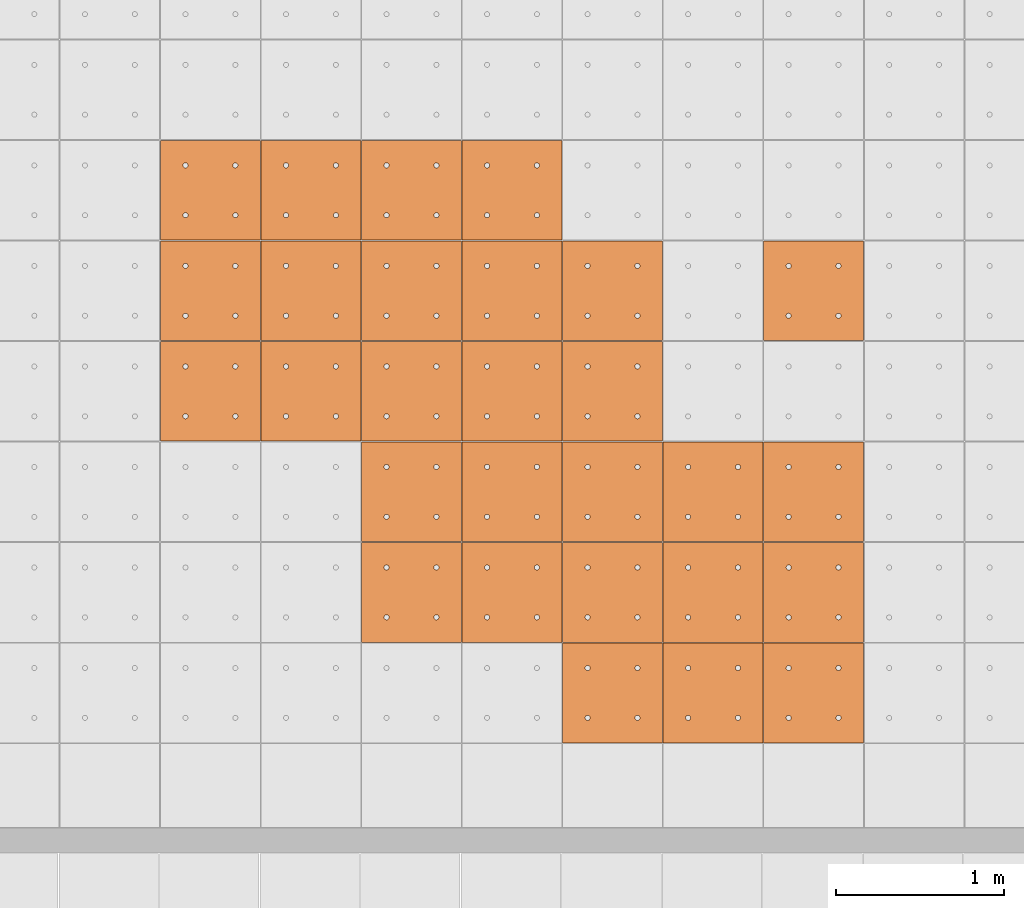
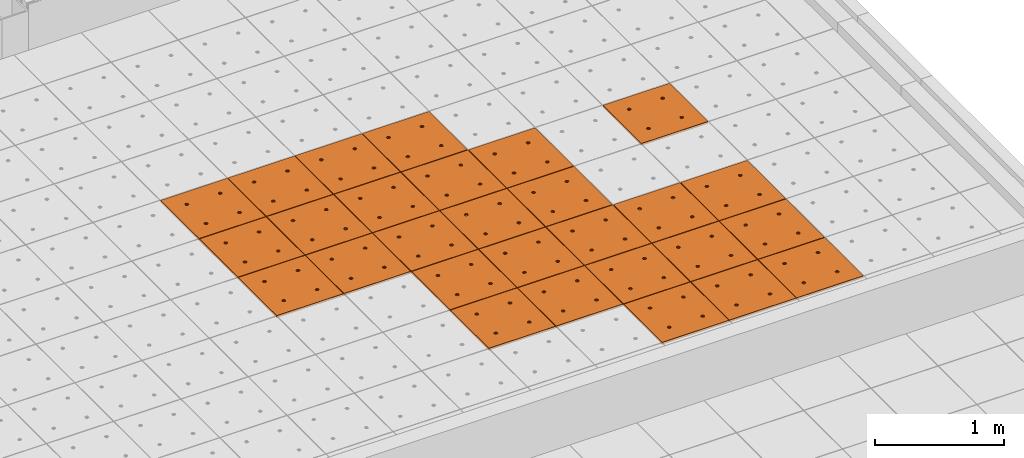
# One storey, part 222 of 338: 28 proxies, 1 element without a shape of its own.
"""IFC2X3 building model written with IfcOpenShell, lengths in millimetres."""

import ifcopenshell
import ifcopenshell.guid

model = None  # the IFC model being written
_history = None  # IfcOwnerHistory: only IFC2X3 demands one
_inside = {}  # id of a spatial element -> (the spatial element, [elements in it])
_under = {}  # id of a project, library or spatial element -> (it, [spatial elements below it])
_declared = {}  # id of a project -> (the project, [libraries it declares])
_typed = {}  # id of a type object -> (the type object, [elements of that type])
_made_of = {}  # id of a material, layer set ... -> (it, [elements and type objects made of it])


def new_model(schema):
    """Start an empty IFC model of exactly this schema.

    Asked for "IFC4X3", IfcOpenShell would pick the latest addendum, in which some entities
    have other attributes; the version numbers below select the first issue.
    IFC2X3 requires an IfcOwnerHistory on every rooted entity: one is made here for all.
    """
    global model, _history
    if schema == "IFC4X3":
        model = ifcopenshell.file(schema_version=(4, 3, 0, 0))
    else:
        model = ifcopenshell.file(schema=schema)
    _inside.clear()
    _under.clear()
    _declared.clear()
    _typed.clear()
    _made_of.clear()
    _history = None
    if model.schema == "IFC2X3":
        org = make("IfcOrganization", Name="unknown")
        user = make(
            "IfcPersonAndOrganization",
            ThePerson=make("IfcPerson", FamilyName="unknown"),
            TheOrganization=org,
        )
        app = make(
            "IfcApplication",
            ApplicationDeveloper=org,
            Version="unknown",
            ApplicationFullName="unknown",
            ApplicationIdentifier="unknown",
        )
        _history = make(
            "IfcOwnerHistory",
            OwningUser=user,
            OwningApplication=app,
            ChangeAction="ADDED",
            CreationDate=0,
        )
    return model


def make(cls, **values):
    """One entity of the class cls with the attributes given. An attribute that is None is left unset."""
    return model.create_entity(
        cls, **{name: value for name, value in values.items() if value is not None}
    )


def entity(cls, *values):
    """Any entity or typed value of the class cls, its attributes in the order of the schema. None: left unset."""
    e = model.create_entity(cls)
    for i, value in enumerate(values):
        if value is not None:
            e[i] = value
    return e


def rooted(cls, **values):
    """An entity with a GlobalId (a new one), such as an element, a storey or a relation."""
    return make(cls, GlobalId=ifcopenshell.guid.new(), OwnerHistory=_history, **values)


def si_unit(unit_type, name, prefix=None):
    """IfcSIUnit, for example si_unit("LENGTHUNIT", "METRE", prefix="MILLI")."""
    return make("IfcSIUnit", UnitType=unit_type, Prefix=prefix, Name=name)


def converted_unit(unit_type, name, factor, base, dimensions=None, offset=None):
    """IfcConversionBasedUnit, such as the inch: factor (a typed value) times the base unit."""
    return make(
        "IfcConversionBasedUnit"
        if offset is None
        else "IfcConversionBasedUnitWithOffset",
        ConversionOffset=offset,
        Dimensions=None
        if dimensions is None
        else entity("IfcDimensionalExponents", *dimensions),
        UnitType=unit_type,
        Name=name,
        ConversionFactor=make(
            "IfcMeasureWithUnit", ValueComponent=factor, UnitComponent=base
        ),
    )


def derived_unit(unit_type, elements):
    """IfcDerivedUnit: a product of units, each with its exponent."""
    return make(
        "IfcDerivedUnit",
        Elements=[
            make("IfcDerivedUnitElement", Unit=unit, Exponent=power)
            for unit, power in elements
        ],
        UnitType=unit_type,
    )


def money_unit(currency):
    """IfcMonetaryUnit."""
    return make("IfcMonetaryUnit", Currency=currency)


def assignment(units):
    """IfcUnitAssignment: the units of a project."""
    return None if units is None else make("IfcUnitAssignment", Units=units)


def point(xyz):
    """IfcCartesianPoint."""
    return None if xyz is None else make("IfcCartesianPoint", Coordinates=xyz)


def direction(xyz):
    """IfcDirection."""
    return None if xyz is None else make("IfcDirection", DirectionRatios=xyz)


def frame(location, z_axis=None, x_axis=None):
    """IfcAxis2Placement3D, a coordinate frame: its origin and axes. An axis left out is left unset."""
    return make(
        "IfcAxis2Placement3D",
        Location=point(location),
        Axis=direction(z_axis),
        RefDirection=direction(x_axis),
    )


def origin_with_axes():
    """The frame at (0, 0, 0) with the z axis (0, 0, 1) and the x axis (1, 0, 0) written out."""
    return frame((0.0, 0.0, 0.0), z_axis=(0.0, 0.0, 1.0), x_axis=(1.0, 0.0, 0.0))


def place(relative_to, where):
    """IfcLocalPlacement: puts the frame where relative to a parent placement (None: the world)."""
    return make(
        "IfcLocalPlacement", PlacementRelTo=relative_to, RelativePlacement=where
    )


def context(
    kind, dimensions, precision=None, world=None, true_north=None, identifier=None
):
    """IfcGeometricRepresentationContext, for example the 3D "Model" context."""
    return make(
        "IfcGeometricRepresentationContext",
        ContextIdentifier=identifier,
        ContextType=kind,
        CoordinateSpaceDimension=dimensions,
        Precision=precision,
        WorldCoordinateSystem=world,
        TrueNorth=true_north,
    )


def subcontext(parent, identifier, kind, view, scale=None):
    """IfcGeometricRepresentationSubContext, for example "Body" below "Model"."""
    return make(
        "IfcGeometricRepresentationSubContext",
        ContextIdentifier=identifier,
        ContextType=kind,
        ParentContext=parent,
        TargetScale=scale,
        TargetView=view,
    )


def project(units=None, contexts=None):
    """IfcProject with its units and contexts."""
    return rooted(
        "IfcProject",
        Name="project",
        RepresentationContexts=contexts,
        UnitsInContext=assignment(units),
    )


def spatial(cls, under=None, at=None, **own):
    """A site, building, storey or space (cls), placed at a placement, below another one or the project."""
    s = rooted(cls, ObjectPlacement=at, **own)
    if under is not None:
        _under.setdefault(under.id(), (under, []))[1].append(s)
    return s


def faces_of(points, faces, orient=None, outer=None):
    """IfcFace entities. A face is a list of loops; a loop is a list of indices into points, from 0.

    orient and outer hold one flag for each loop. By default every Orientation is true, the
    first loop of a face is its IfcFaceOuterBound and the others are IfcFaceBound.
    """
    made = []
    for i, loops in enumerate(faces):
        bounds = []
        for j, loop in enumerate(loops):
            is_outer = j == 0 if outer is None else outer[i][j]
            bounds.append(
                make(
                    "IfcFaceOuterBound" if is_outer else "IfcFaceBound",
                    Bound=make("IfcPolyLoop", Polygon=[points[k] for k in loop]),
                    Orientation=True if orient is None else orient[i][j],
                )
            )
        made.append(make("IfcFace", Bounds=bounds))
    return made


def faceted_brep(points, faces, orient=None, outer=None, voids=None):
    """IfcFacetedBrep: a solid bounded by flat faces; with voids (closed shells), ...WithVoids."""
    shared = [point(p) for p in points]
    hull = make("IfcClosedShell", CfsFaces=faces_of(shared, faces, orient, outer))
    if voids is None:
        return make("IfcFacetedBrep", Outer=hull)
    return make(
        "IfcFacetedBrepWithVoids",
        Outer=hull,
        Voids=[
            make(cls, CfsFaces=faces_of(shared, fs, o, b)) for cls, fs, o, b in voids
        ],
    )


def shape(context_of_items, identifier, shape_type, items):
    """IfcShapeRepresentation: the items that make up one representation, for example the "Body"."""
    return make(
        "IfcShapeRepresentation",
        ContextOfItems=context_of_items,
        RepresentationIdentifier=identifier,
        RepresentationType=shape_type,
        Items=items,
    )


def source(mapping_origin, context_of_items, identifier, shape_type, items):
    """IfcRepresentationMap: a shape defined once, which mapped items show again and again."""
    return make(
        "IfcRepresentationMap",
        MappingOrigin=mapping_origin,
        MappedRepresentation=shape(context_of_items, identifier, shape_type, items),
    )


def transform(
    local_origin,
    x_axis=None,
    y_axis=None,
    z_axis=None,
    scale=None,
    scale2=None,
    scale3=None,
    uniform=True,
):
    """IfcCartesianTransformationOperator3D, or its non-uniform kind. x_axis, y_axis, z_axis: its Axis1, 2, 3."""
    if uniform:
        return make(
            "IfcCartesianTransformationOperator3D",
            Axis1=direction(x_axis),
            Axis2=direction(y_axis),
            LocalOrigin=point(local_origin),
            Scale=scale,
            Axis3=direction(z_axis),
        )
    return make(
        "IfcCartesianTransformationOperator3DnonUniform",
        Axis1=direction(x_axis),
        Axis2=direction(y_axis),
        LocalOrigin=point(local_origin),
        Scale=scale,
        Axis3=direction(z_axis),
        Scale2=scale2,
        Scale3=scale3,
    )


def mapped(mapping_source, mapping_target):
    """IfcMappedItem: shows the shape of a source again, moved by a transform."""
    return make(
        "IfcMappedItem", MappingSource=mapping_source, MappingTarget=mapping_target
    )


def material(Name=None, Category=None):
    """IfcMaterial."""
    return make("IfcMaterial", Name=Name, Category=Category)


def made_of(thing, what):
    """Note that an element or type object is made of a material, layer set ...; save() writes the relation."""
    if what is not None:
        _made_of.setdefault(what.id(), (what, []))[1].append(thing)
    return thing


def type_object(cls, material=None, **own):
    """A type object (cls), such as IfcWallType, which elements share."""
    return made_of(rooted(cls, **own), material)


def type_shapes(of_type, sources):
    """Give a type object the sources (RepresentationMaps) that its elements show as mapped items."""
    of_type.RepresentationMaps = sources


def element(
    cls,
    number,
    at=None,
    inside=None,
    cuts=None,
    type_object=None,
    material=None,
    context=None,
    identifier="Body",
    shape_type=None,
    held_by="IfcProductDefinitionShape",
    body=None,
    shapes=None,
    **own,
):
    """One element of the class cls, such as IfcWall. Its Tag is "e" and its number.

    at: its placement. inside: the storey or other place that contains it. cuts: it is an
    opening in that element (IfcRelVoidsElement). A single representation is given by context,
    identifier, shape_type and body (its items); several are given by shapes. held_by: the class
    of the entity that holds the representations. save() writes the other relations.
    """
    e = rooted(cls, Tag="e%d" % number, ObjectPlacement=at, **own)
    if body is not None:
        shapes = [shape(context, identifier, shape_type, body)]
    if shapes is not None:
        e.Representation = make(held_by, Representations=shapes)
    if inside is not None:
        _inside.setdefault(inside.id(), (inside, []))[1].append(e)
    if cuts is not None:
        rooted(
            "IfcRelVoidsElement", RelatingBuildingElement=cuts, RelatedOpeningElement=e
        )
    if type_object is not None:
        _typed.setdefault(type_object.id(), (type_object, []))[1].append(e)
    return made_of(e, material)


def aggregate(whole, parts):
    """IfcRelAggregates: a whole, such as a stair, and the parts it consists of."""
    return rooted("IfcRelAggregates", RelatingObject=whole, RelatedObjects=parts)


def save(model, path):
    """Write the relations noted so far, then the file.

    IfcRelAggregates (storeys below a building ...), IfcRelContainedInSpatialStructure (elements
    in a storey), IfcRelDefinesByType, IfcRelAssociatesMaterial and IfcRelDeclares: one each for
    every whole, place, type object, material and project.
    """
    for whole, parts in _under.values():
        aggregate(whole, parts)
    for where, things in _inside.values():
        rooted(
            "IfcRelContainedInSpatialStructure",
            RelatedElements=things,
            RelatingStructure=where,
        )
    for kind, things in _typed.values():
        rooted("IfcRelDefinesByType", RelatedObjects=things, RelatingType=kind)
    for what, things in _made_of.values():
        rooted("IfcRelAssociatesMaterial", RelatedObjects=things, RelatingMaterial=what)
    for by, libraries in _declared.values():
        rooted("IfcRelDeclares", RelatingContext=by, RelatedDefinitions=libraries)
    model.write(path)


model = new_model("IFC2X3")

# Units and contexts
model_context = context("Model", 3, precision=0.01, world=origin_with_axes(), true_north=direction((0.0, 1.0)))
plan_context = context("Plan", 3, precision=0.01, world=origin_with_axes(), true_north=direction((0.0, 1.0)))
body_context = subcontext(model_context, "Body", "Model", "MODEL_VIEW")
ifc_project = project(units=[si_unit("LENGTHUNIT", "METRE", prefix="MILLI"), si_unit("AREAUNIT", "SQUARE_METRE"), si_unit("VOLUMEUNIT", "CUBIC_METRE"), converted_unit("PLANEANGLEUNIT", "DEGREE", entity("IfcPlaneAngleMeasure", 0.0174532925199), si_unit("PLANEANGLEUNIT", "RADIAN"), dimensions=[0, 0, 0, 0, 0, 0, 0]), money_unit("EUR"), converted_unit("TIMEUNIT", "Year", entity("IfcTimeMeasure", 31556926.0), si_unit("TIMEUNIT", "SECOND"), dimensions=[0, 0, 1, 0, 0, 0, 0]), si_unit("MASSUNIT", "GRAM", prefix="KILO"), si_unit("THERMODYNAMICTEMPERATUREUNIT", "DEGREE_CELSIUS"), si_unit("LUMINOUSINTENSITYUNIT", "LUMEN"), si_unit("ENERGYUNIT", "JOULE", prefix="MEGA"), derived_unit("THERMALCONDUCTANCEUNIT", [(si_unit("POWERUNIT", "WATT"), 1), (si_unit("LENGTHUNIT", "METRE"), -1), (si_unit("THERMODYNAMICTEMPERATUREUNIT", "KELVIN"), -1)]), derived_unit("SPECIFICHEATCAPACITYUNIT", [(si_unit("ENERGYUNIT", "JOULE"), 1), (si_unit("MASSUNIT", "GRAM", prefix="KILO"), -1), (si_unit("THERMODYNAMICTEMPERATUREUNIT", "KELVIN"), -1)]), derived_unit("MASSDENSITYUNIT", [(si_unit("MASSUNIT", "GRAM", prefix="KILO"), 1), (si_unit("VOLUMEUNIT", "CUBIC_METRE"), -1)])], contexts=[model_context, plan_context])

# Site, building, storey
site_placement = place(None, origin_with_axes())
site = spatial("IfcSite", under=ifc_project, at=site_placement, Name="Fortuinstraat Woensdrecht", CompositionType="ELEMENT")
building_placement = place(site_placement, origin_with_axes())
building = spatial("IfcBuilding", under=site, at=building_placement, Name="IKC Fortuna", CompositionType="ELEMENT")
storey_placement = place(building_placement, origin_with_axes())
storey = spatial("IfcBuildingStorey", under=building, at=storey_placement, Name="00 begane grond", CompositionType="ELEMENT", Elevation=0.0)

# Covering, proxies
covering_type = type_object("IfcCoveringType", Name="Curtain Wall Type", PredefinedType="CEILING")
covering_placement = place(storey_placement, frame((31656.9226967, 15748.5304598, 3210.0), z_axis=(0.0, 0.0, 1.0), x_axis=(1.0, 0.0, 0.0)))
covering = element("IfcCovering", 1, at=covering_placement, inside=storey, type_object=covering_type, Name="45_Plafondafwerking_P01", PredefinedType="CEILING")
ifc_material = material(Name="Gipsplaat")
building_element_proxy_type = type_object("IfcBuildingElementProxyType", Name="Main Panel 600 x 600 x 20", PredefinedType="NOTDEFINED")
shared_shape = source(origin_with_axes(), body_context, "Body", "Brep", [
    faceted_brep([(2.49999999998, 2.49999999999, -10.0), (300.0, 2.49999999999, -10.0), (300.0, 2.49999999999, 10.0), (2.49999999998, 2.49999999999, 10.0), (2.49999999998, 300.0, -10.0), (2.49999999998, 597.5, -10.0), (300.0, 597.5, -10.0), (597.5, 597.5, -10.0), (597.5, 300.0, -10.0), (597.5, 2.49999999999, -10.0), (166.25, 450.06232995, -10.0), (165.79423259, 452.64711538, -10.0), (164.896546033, 455.11348892, -10.0), (163.58421608, 457.38651108, -10.0), (161.897117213, 459.39711721, -10.0), (159.886511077, 461.08421608, -10.0), (157.613488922, 462.39654603, -10.0), (155.147115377, 463.29423259, -10.0), (152.562329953, 463.75, -10.0), (149.937670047, 463.75, -10.0), (147.352884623, 463.29423259, -10.0), (144.886511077, 462.39654603, -10.0), (142.613488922, 461.08421608, -10.0), (140.602882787, 459.39711721, -10.0), (138.91578392, 457.38651108, -10.0), (137.603453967, 455.11348892, -10.0), (136.705767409, 452.64711538, -10.0), (136.25, 450.06232995, -10.0), (136.25, 448.75, -10.0), (136.25, 447.43767005, -10.0), (136.705767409, 444.85288462, -10.0), (137.603453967, 442.38651108, -10.0), (138.91578392, 440.11348892, -10.0), (140.602882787, 438.10288279, -10.0), (142.613488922, 436.41578392, -10.0), (144.886511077, 435.10345397, -10.0), (147.352884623, 434.20576741, -10.0), (149.937670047, 433.75, -10.0), (152.562329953, 433.75, -10.0), (155.147115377, 434.20576741, -10.0), (157.613488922, 435.10345397, -10.0), (159.886511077, 436.41578392, -10.0), (161.897117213, 438.10288279, -10.0), (163.58421608, 440.11348892, -10.0), (164.896546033, 442.38651108, -10.0), (165.79423259, 444.85288462, -10.0), (166.25, 447.43767005, -10.0), (463.75, 450.06232995, -10.0), (463.29423259, 452.64711538, -10.0), (462.396546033, 455.11348892, -10.0), (461.08421608, 457.38651108, -10.0), (459.397117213, 459.39711721, -10.0), (457.386511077, 461.08421608, -10.0), (455.113488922, 462.39654603, -10.0), (452.647115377, 463.29423259, -10.0), (450.062329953, 463.75, -10.0), (447.437670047, 463.75, -10.0), (444.852884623, 463.29423259, -10.0), (442.386511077, 462.39654603, -10.0), (440.113488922, 461.08421608, -10.0), (438.102882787, 459.39711721, -10.0), (436.41578392, 457.38651108, -10.0), (435.103453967, 455.11348892, -10.0), (434.205767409, 452.64711538, -10.0), (433.75, 450.06232995, -10.0), (433.75, 448.75, -10.0), (433.75, 447.43767005, -10.0), (434.205767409, 444.85288462, -10.0), (435.103453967, 442.38651108, -10.0), (436.41578392, 440.11348892, -10.0), (438.102882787, 438.10288279, -10.0), (440.113488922, 436.41578392, -10.0), (442.386511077, 435.10345397, -10.0), (444.852884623, 434.20576741, -10.0), (447.437670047, 433.75, -10.0), (450.062329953, 433.75, -10.0), (452.647115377, 434.20576741, -10.0), (455.113488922, 435.10345397, -10.0), (457.386511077, 436.41578392, -10.0), (459.397117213, 438.10288279, -10.0), (461.08421608, 440.11348892, -10.0), (462.396546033, 442.38651108, -10.0), (463.29423259, 444.85288462, -10.0), (463.75, 447.43767005, -10.0), (463.75, 152.56232995, -10.0), (463.29423259, 155.14711538, -10.0), (462.396546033, 157.61348892, -10.0), (461.08421608, 159.88651108, -10.0), (459.397117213, 161.89711721, -10.0), (457.386511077, 163.58421608, -10.0), (455.113488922, 164.89654603, -10.0), (452.647115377, 165.79423259, -10.0), (450.062329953, 166.25, -10.0), (447.437670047, 166.25, -10.0), (444.852884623, 165.79423259, -10.0), (442.386511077, 164.89654603, -10.0), (440.113488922, 163.58421608, -10.0), (438.102882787, 161.89711721, -10.0), (436.41578392, 159.88651108, -10.0), (435.103453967, 157.61348892, -10.0), (434.205767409, 155.14711538, -10.0), (433.75, 152.56232995, -10.0), (433.75, 151.25, -10.0), (433.75, 149.93767005, -10.0), (434.205767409, 147.35288462, -10.0), (435.103453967, 144.88651108, -10.0), (436.41578392, 142.61348892, -10.0), (438.102882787, 140.60288279, -10.0), (440.113488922, 138.91578392, -10.0), (442.386511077, 137.60345397, -10.0), (444.852884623, 136.70576741, -10.0), (447.437670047, 136.25, -10.0), (450.062329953, 136.25, -10.0), (452.647115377, 136.70576741, -10.0), (455.113488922, 137.60345397, -10.0), (457.386511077, 138.91578392, -10.0), (459.397117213, 140.60288279, -10.0), (461.08421608, 142.61348892, -10.0), (462.396546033, 144.88651108, -10.0), (463.29423259, 147.35288462, -10.0), (463.75, 149.93767005, -10.0), (166.25, 152.56232995, -10.0), (165.79423259, 155.14711538, -10.0), (164.896546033, 157.61348892, -10.0), (163.58421608, 159.88651108, -10.0), (161.897117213, 161.89711721, -10.0), (159.886511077, 163.58421608, -10.0), (157.613488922, 164.89654603, -10.0), (155.147115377, 165.79423259, -10.0), (152.562329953, 166.25, -10.0), (149.937670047, 166.25, -10.0), (147.352884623, 165.79423259, -10.0), (144.886511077, 164.89654603, -10.0), (142.613488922, 163.58421608, -10.0), (140.602882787, 161.89711721, -10.0), (138.91578392, 159.88651108, -10.0), (137.603453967, 157.61348892, -10.0), (136.705767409, 155.14711538, -10.0), (136.25, 152.56232995, -10.0), (136.25, 151.25, -10.0), (136.25, 149.93767005, -10.0), (136.705767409, 147.35288462, -10.0), (137.603453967, 144.88651108, -10.0), (138.91578392, 142.61348892, -10.0), (140.602882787, 140.60288279, -10.0), (142.613488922, 138.91578392, -10.0), (144.886511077, 137.60345397, -10.0), (147.352884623, 136.70576741, -10.0), (149.937670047, 136.25, -10.0), (152.562329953, 136.25, -10.0), (155.147115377, 136.70576741, -10.0), (157.613488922, 137.60345397, -10.0), (159.886511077, 138.91578392, -10.0), (161.897117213, 140.60288279, -10.0), (163.58421608, 142.61348892, -10.0), (164.896546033, 144.88651108, -10.0), (165.79423259, 147.35288462, -10.0), (166.25, 149.93767005, -10.0), (597.5, 2.49999999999, 10.0), (597.5, 300.0, 10.0), (597.5, 597.5, 10.0), (300.0, 597.5, 10.0), (2.49999999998, 597.5, 10.0), (2.49999999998, 300.0, 10.0), (166.25, 450.06232995, 10.0), (166.25, 447.43767005, 10.0), (165.79423259, 444.85288462, 10.0), (164.896546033, 442.38651108, 10.0), (163.58421608, 440.11348892, 10.0), (161.897117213, 438.10288279, 10.0), (159.886511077, 436.41578392, 10.0), (157.613488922, 435.10345397, 10.0), (155.147115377, 434.20576741, 10.0), (152.562329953, 433.75, 10.0), (149.937670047, 433.75, 10.0), (147.352884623, 434.20576741, 10.0), (144.886511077, 435.10345397, 10.0), (142.613488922, 436.41578392, 10.0), (140.602882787, 438.10288279, 10.0), (138.91578392, 440.11348892, 10.0), (137.603453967, 442.38651108, 10.0), (136.705767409, 444.85288462, 10.0), (136.25, 447.43767005, 10.0), (136.25, 448.75, 10.0), (136.25, 450.06232995, 10.0), (136.705767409, 452.64711538, 10.0), (137.603453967, 455.11348892, 10.0), (138.91578392, 457.38651108, 10.0), (140.602882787, 459.39711721, 10.0), (142.613488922, 461.08421608, 10.0), (144.886511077, 462.39654603, 10.0), (147.352884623, 463.29423259, 10.0), (149.937670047, 463.75, 10.0), (152.562329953, 463.75, 10.0), (155.147115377, 463.29423259, 10.0), (157.613488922, 462.39654603, 10.0), (159.886511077, 461.08421608, 10.0), (161.897117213, 459.39711721, 10.0), (163.58421608, 457.38651108, 10.0), (164.896546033, 455.11348892, 10.0), (165.79423259, 452.64711538, 10.0), (463.75, 450.06232995, 10.0), (463.75, 447.43767005, 10.0), (463.29423259, 444.85288462, 10.0), (462.396546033, 442.38651108, 10.0), (461.08421608, 440.11348892, 10.0), (459.397117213, 438.10288279, 10.0), (457.386511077, 436.41578392, 10.0), (455.113488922, 435.10345397, 10.0), (452.647115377, 434.20576741, 10.0), (450.062329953, 433.75, 10.0), (447.437670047, 433.75, 10.0), (444.852884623, 434.20576741, 10.0), (442.386511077, 435.10345397, 10.0), (440.113488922, 436.41578392, 10.0), (438.102882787, 438.10288279, 10.0), (436.41578392, 440.11348892, 10.0), (435.103453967, 442.38651108, 10.0), (434.205767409, 444.85288462, 10.0), (433.75, 447.43767005, 10.0), (433.75, 448.75, 10.0), (433.75, 450.06232995, 10.0), (434.205767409, 452.64711538, 10.0), (435.103453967, 455.11348892, 10.0), (436.41578392, 457.38651108, 10.0), (438.102882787, 459.39711721, 10.0), (440.113488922, 461.08421608, 10.0), (442.386511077, 462.39654603, 10.0), (444.852884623, 463.29423259, 10.0), (447.437670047, 463.75, 10.0), (450.062329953, 463.75, 10.0), (452.647115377, 463.29423259, 10.0), (455.113488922, 462.39654603, 10.0), (457.386511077, 461.08421608, 10.0), (459.397117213, 459.39711721, 10.0), (461.08421608, 457.38651108, 10.0), (462.396546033, 455.11348892, 10.0), (463.29423259, 452.64711538, 10.0), (463.75, 152.56232995, 10.0), (463.75, 149.93767005, 10.0), (463.29423259, 147.35288462, 10.0), (462.396546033, 144.88651108, 10.0), (461.08421608, 142.61348892, 10.0), (459.397117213, 140.60288279, 10.0), (457.386511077, 138.91578392, 10.0), (455.113488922, 137.60345397, 10.0), (452.647115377, 136.70576741, 10.0), (450.062329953, 136.25, 10.0), (447.437670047, 136.25, 10.0), (444.852884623, 136.70576741, 10.0), (442.386511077, 137.60345397, 10.0), (440.113488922, 138.91578392, 10.0), (438.102882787, 140.60288279, 10.0), (436.41578392, 142.61348892, 10.0), (435.103453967, 144.88651108, 10.0), (434.205767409, 147.35288462, 10.0), (433.75, 149.93767005, 10.0), (433.75, 151.25, 10.0), (433.75, 152.56232995, 10.0), (434.205767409, 155.14711538, 10.0), (435.103453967, 157.61348892, 10.0), (436.41578392, 159.88651108, 10.0), (438.102882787, 161.89711721, 10.0), (440.113488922, 163.58421608, 10.0), (442.386511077, 164.89654603, 10.0), (444.852884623, 165.79423259, 10.0), (447.437670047, 166.25, 10.0), (450.062329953, 166.25, 10.0), (452.647115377, 165.79423259, 10.0), (455.113488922, 164.89654603, 10.0), (457.386511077, 163.58421608, 10.0), (459.397117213, 161.89711721, 10.0), (461.08421608, 159.88651108, 10.0), (462.396546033, 157.61348892, 10.0), (463.29423259, 155.14711538, 10.0), (166.25, 152.56232995, 10.0), (166.25, 149.93767005, 10.0), (165.79423259, 147.35288462, 10.0), (164.896546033, 144.88651108, 10.0), (163.58421608, 142.61348892, 10.0), (161.897117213, 140.60288279, 10.0), (159.886511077, 138.91578392, 10.0), (157.613488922, 137.60345397, 10.0), (155.147115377, 136.70576741, 10.0), (152.562329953, 136.25, 10.0), (149.937670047, 136.25, 10.0), (147.352884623, 136.70576741, 10.0), (144.886511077, 137.60345397, 10.0), (142.613488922, 138.91578392, 10.0), (140.602882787, 140.60288279, 10.0), (138.91578392, 142.61348892, 10.0), (137.603453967, 144.88651108, 10.0), (136.705767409, 147.35288462, 10.0), (136.25, 149.93767005, 10.0), (136.25, 151.25, 10.0), (136.25, 152.56232995, 10.0), (136.705767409, 155.14711538, 10.0), (137.603453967, 157.61348892, 10.0), (138.91578392, 159.88651108, 10.0), (140.602882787, 161.89711721, 10.0), (142.613488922, 163.58421608, 10.0), (144.886511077, 164.89654603, 10.0), (147.352884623, 165.79423259, 10.0), (149.937670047, 166.25, 10.0), (152.562329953, 166.25, 10.0), (155.147115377, 165.79423259, 10.0), (157.613488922, 164.89654603, 10.0), (159.886511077, 163.58421608, 10.0), (161.897117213, 161.89711721, 10.0), (163.58421608, 159.88651108, 10.0), (164.896546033, 157.61348892, 10.0), (165.79423259, 155.14711538, 10.0)], [[[0, 1, 2, 3]], [[0, 4, 5, 6, 7, 8, 9, 1], [10, 11, 12, 13, 14, 15, 16, 17, 18, 19, 20, 21, 22, 23, 24, 25, 26, 27, 28, 29, 30, 31, 32, 33, 34, 35, 36, 37, 38, 39, 40, 41, 42, 43, 44, 45, 46], [47, 48, 49, 50, 51, 52, 53, 54, 55, 56, 57, 58, 59, 60, 61, 62, 63, 64, 65, 66, 67, 68, 69, 70, 71, 72, 73, 74, 75, 76, 77, 78, 79, 80, 81, 82, 83], [84, 85, 86, 87, 88, 89, 90, 91, 92, 93, 94, 95, 96, 97, 98, 99, 100, 101, 102, 103, 104, 105, 106, 107, 108, 109, 110, 111, 112, 113, 114, 115, 116, 117, 118, 119, 120], [121, 122, 123, 124, 125, 126, 127, 128, 129, 130, 131, 132, 133, 134, 135, 136, 137, 138, 139, 140, 141, 142, 143, 144, 145, 146, 147, 148, 149, 150, 151, 152, 153, 154, 155, 156, 157]], [[1, 9, 158, 2]], [[3, 2, 158, 159, 160, 161, 162, 163], [164, 165, 166, 167, 168, 169, 170, 171, 172, 173, 174, 175, 176, 177, 178, 179, 180, 181, 182, 183, 184, 185, 186, 187, 188, 189, 190, 191, 192, 193, 194, 195, 196, 197, 198, 199, 200], [201, 202, 203, 204, 205, 206, 207, 208, 209, 210, 211, 212, 213, 214, 215, 216, 217, 218, 219, 220, 221, 222, 223, 224, 225, 226, 227, 228, 229, 230, 231, 232, 233, 234, 235, 236, 237], [238, 239, 240, 241, 242, 243, 244, 245, 246, 247, 248, 249, 250, 251, 252, 253, 254, 255, 256, 257, 258, 259, 260, 261, 262, 263, 264, 265, 266, 267, 268, 269, 270, 271, 272, 273, 274], [275, 276, 277, 278, 279, 280, 281, 282, 283, 284, 285, 286, 287, 288, 289, 290, 291, 292, 293, 294, 295, 296, 297, 298, 299, 300, 301, 302, 303, 304, 305, 306, 307, 308, 309, 310, 311]], [[4, 0, 3, 163]], [[5, 4, 163, 162]], [[6, 5, 162, 161]], [[7, 6, 161, 160]], [[8, 7, 160, 159]], [[9, 8, 159, 158]], [[11, 10, 164, 200]], [[12, 11, 200, 199]], [[13, 12, 199, 198]], [[14, 13, 198, 197]], [[15, 14, 197, 196]], [[16, 15, 196, 195]], [[17, 16, 195, 194]], [[18, 17, 194, 193]], [[19, 18, 193, 192]], [[20, 19, 192, 191]], [[21, 20, 191, 190]], [[22, 21, 190, 189]], [[23, 22, 189, 188]], [[24, 23, 188, 187]], [[25, 24, 187, 186]], [[26, 25, 186, 185]], [[27, 26, 185, 184]], [[28, 27, 184, 183]], [[29, 28, 183, 182]], [[30, 29, 182, 181]], [[31, 30, 181, 180]], [[32, 31, 180, 179]], [[33, 32, 179, 178]], [[34, 33, 178, 177]], [[35, 34, 177, 176]], [[36, 35, 176, 175]], [[37, 36, 175, 174]], [[38, 37, 174, 173]], [[39, 38, 173, 172]], [[40, 39, 172, 171]], [[41, 40, 171, 170]], [[42, 41, 170, 169]], [[43, 42, 169, 168]], [[44, 43, 168, 167]], [[45, 44, 167, 166]], [[46, 45, 166, 165]], [[10, 46, 165, 164]], [[48, 47, 201, 237]], [[49, 48, 237, 236]], [[50, 49, 236, 235]], [[51, 50, 235, 234]], [[52, 51, 234, 233]], [[53, 52, 233, 232]], [[54, 53, 232, 231]], [[55, 54, 231, 230]], [[56, 55, 230, 229]], [[57, 56, 229, 228]], [[58, 57, 228, 227]], [[59, 58, 227, 226]], [[60, 59, 226, 225]], [[61, 60, 225, 224]], [[62, 61, 224, 223]], [[63, 62, 223, 222]], [[64, 63, 222, 221]], [[65, 64, 221, 220]], [[66, 65, 220, 219]], [[67, 66, 219, 218]], [[68, 67, 218, 217]], [[69, 68, 217, 216]], [[70, 69, 216, 215]], [[71, 70, 215, 214]], [[72, 71, 214, 213]], [[73, 72, 213, 212]], [[74, 73, 212, 211]], [[75, 74, 211, 210]], [[76, 75, 210, 209]], [[77, 76, 209, 208]], [[78, 77, 208, 207]], [[79, 78, 207, 206]], [[80, 79, 206, 205]], [[81, 80, 205, 204]], [[82, 81, 204, 203]], [[83, 82, 203, 202]], [[47, 83, 202, 201]], [[85, 84, 238, 274]], [[86, 85, 274, 273]], [[87, 86, 273, 272]], [[88, 87, 272, 271]], [[89, 88, 271, 270]], [[90, 89, 270, 269]], [[91, 90, 269, 268]], [[92, 91, 268, 267]], [[93, 92, 267, 266]], [[94, 93, 266, 265]], [[95, 94, 265, 264]], [[96, 95, 264, 263]], [[97, 96, 263, 262]], [[98, 97, 262, 261]], [[99, 98, 261, 260]], [[100, 99, 260, 259]], [[101, 100, 259, 258]], [[102, 101, 258, 257]], [[103, 102, 257, 256]], [[104, 103, 256, 255]], [[105, 104, 255, 254]], [[106, 105, 254, 253]], [[107, 106, 253, 252]], [[108, 107, 252, 251]], [[109, 108, 251, 250]], [[110, 109, 250, 249]], [[111, 110, 249, 248]], [[112, 111, 248, 247]], [[113, 112, 247, 246]], [[114, 113, 246, 245]], [[115, 114, 245, 244]], [[116, 115, 244, 243]], [[117, 116, 243, 242]], [[118, 117, 242, 241]], [[119, 118, 241, 240]], [[120, 119, 240, 239]], [[84, 120, 239, 238]], [[122, 121, 275, 311]], [[123, 122, 311, 310]], [[124, 123, 310, 309]], [[125, 124, 309, 308]], [[126, 125, 308, 307]], [[127, 126, 307, 306]], [[128, 127, 306, 305]], [[129, 128, 305, 304]], [[130, 129, 304, 303]], [[131, 130, 303, 302]], [[132, 131, 302, 301]], [[133, 132, 301, 300]], [[134, 133, 300, 299]], [[135, 134, 299, 298]], [[136, 135, 298, 297]], [[137, 136, 297, 296]], [[138, 137, 296, 295]], [[139, 138, 295, 294]], [[140, 139, 294, 293]], [[141, 140, 293, 292]], [[142, 141, 292, 291]], [[143, 142, 291, 290]], [[144, 143, 290, 289]], [[145, 144, 289, 288]], [[146, 145, 288, 287]], [[147, 146, 287, 286]], [[148, 147, 286, 285]], [[149, 148, 285, 284]], [[150, 149, 284, 283]], [[151, 150, 283, 282]], [[152, 151, 282, 281]], [[153, 152, 281, 280]], [[154, 153, 280, 279]], [[155, 154, 279, 278]], [[156, 155, 278, 277]], [[157, 156, 277, 276]], [[121, 157, 276, 275]]]),
])
type_shapes(building_element_proxy_type, [shared_shape])
proxy_1_placement = place(covering_placement, frame((-2400.0, -1800.0, 1.74971148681e-10), z_axis=(0.0, 0.0, 1.0), x_axis=(1.0, 0.0, 0.0)))
proxy_1 = element("IfcBuildingElementProxy", 2, at=proxy_1_placement, type_object=building_element_proxy_type, material=ifc_material, Name="__600x703 Rockfon Krios", context=body_context, shape_type="MappedRepresentation", body=[
    mapped(shared_shape, transform((300.0, 300.0, 0.0), x_axis=(-1.0, 0.0, 0.0), y_axis=(0.0, -1.0, 0.0), z_axis=(0.0, 0.0, 1.0))),
])
proxy_2_placement = place(covering_placement, frame((-2400.0, -1200.0, 1.74971148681e-10), z_axis=(0.0, 0.0, 1.0), x_axis=(1.0, 0.0, 0.0)))
proxy_2 = element("IfcBuildingElementProxy", 3, at=proxy_2_placement, type_object=building_element_proxy_type, material=ifc_material, Name="__600x707 Rockfon Krios", context=body_context, shape_type="MappedRepresentation", body=[
    mapped(shared_shape, transform((300.0, 300.0, 0.0), x_axis=(-1.0, 0.0, 0.0), y_axis=(0.0, -1.0, 0.0), z_axis=(0.0, 0.0, 1.0))),
])
proxy_3_placement = place(covering_placement, frame((1200.0, -1200.0, 0.0), z_axis=(0.0, 0.0, 1.0), x_axis=(1.0, 0.0, 0.0)))
proxy_3 = element("IfcBuildingElementProxy", 4, at=proxy_3_placement, type_object=building_element_proxy_type, material=ifc_material, Name="__600x717 Rockfon Krios", context=body_context, shape_type="MappedRepresentation", body=[
    mapped(shared_shape, transform((300.0, 300.0, 0.0), x_axis=(-1.0, 0.0, 0.0), y_axis=(0.0, -1.0, 0.0), z_axis=(0.0, 0.0, 1.0))),
])
proxy_4_placement = place(covering_placement, frame((1200.0, -2400.0, 0.0), z_axis=(0.0, 0.0, 1.0), x_axis=(1.0, 0.0, 0.0)))
proxy_4 = element("IfcBuildingElementProxy", 5, at=proxy_4_placement, type_object=building_element_proxy_type, material=ifc_material, Name="__600x719 Rockfon Krios", context=body_context, shape_type="MappedRepresentation", body=[
    mapped(shared_shape, transform((300.0, 300.0, 0.0), x_axis=(-1.0, 0.0, 0.0), y_axis=(0.0, -1.0, 0.0), z_axis=(0.0, 0.0, 1.0))),
])
proxy_5_placement = place(covering_placement, frame((1200.0, -3000.0, 0.0), z_axis=(0.0, 0.0, 1.0), x_axis=(1.0, 0.0, 0.0)))
proxy_5 = element("IfcBuildingElementProxy", 6, at=proxy_5_placement, type_object=building_element_proxy_type, material=ifc_material, Name="__600x720 Rockfon Krios", context=body_context, shape_type="MappedRepresentation", body=[
    mapped(shared_shape, transform((300.0, 300.0, 0.0), x_axis=(-1.0, 0.0, 0.0), y_axis=(0.0, -1.0, 0.0), z_axis=(0.0, 0.0, 1.0))),
])
proxy_6_placement = place(covering_placement, frame((1200.0, -3600.0, 0.0), z_axis=(0.0, 0.0, 1.0), x_axis=(1.0, 0.0, 0.0)))
proxy_6 = element("IfcBuildingElementProxy", 7, at=proxy_6_placement, type_object=building_element_proxy_type, material=ifc_material, Name="__600x721 Rockfon Krios", context=body_context, shape_type="MappedRepresentation", body=[
    mapped(shared_shape, transform((300.0, 300.0, 0.0), x_axis=(-1.0, 0.0, 0.0), y_axis=(0.0, -1.0, 0.0), z_axis=(0.0, 0.0, 1.0))),
])
proxy_7_placement = place(covering_placement, frame((600.0, -2400.0, 0.0), z_axis=(0.0, 0.0, 1.0), x_axis=(1.0, 0.0, 0.0)))
proxy_7 = element("IfcBuildingElementProxy", 8, at=proxy_7_placement, type_object=building_element_proxy_type, material=ifc_material, Name="__600x727 Rockfon Krios", context=body_context, shape_type="MappedRepresentation", body=[
    mapped(shared_shape, transform((300.0, 300.0, 0.0), x_axis=(-1.0, 0.0, 0.0), y_axis=(0.0, -1.0, 0.0), z_axis=(0.0, 0.0, 1.0))),
])
proxy_8_placement = place(covering_placement, frame((600.0, -3000.0, 0.0), z_axis=(0.0, 0.0, 1.0), x_axis=(1.0, 0.0, 0.0)))
proxy_8 = element("IfcBuildingElementProxy", 9, at=proxy_8_placement, type_object=building_element_proxy_type, material=ifc_material, Name="__600x728 Rockfon Krios", context=body_context, shape_type="MappedRepresentation", body=[
    mapped(shared_shape, transform((300.0, 300.0, 0.0), x_axis=(-1.0, 0.0, 0.0), y_axis=(0.0, -1.0, 0.0), z_axis=(0.0, 0.0, 1.0))),
])
proxy_9_placement = place(covering_placement, frame((600.0, -3600.0, 0.0), z_axis=(0.0, 0.0, 1.0), x_axis=(1.0, 0.0, 0.0)))
proxy_9 = element("IfcBuildingElementProxy", 10, at=proxy_9_placement, type_object=building_element_proxy_type, material=ifc_material, Name="__600x729 Rockfon Krios", context=body_context, shape_type="MappedRepresentation", body=[
    mapped(shared_shape, transform((300.0, 300.0, 0.0), x_axis=(-1.0, 0.0, 0.0), y_axis=(0.0, -1.0, 0.0), z_axis=(0.0, 0.0, 1.0))),
])
proxy_10_placement = place(covering_placement, frame((0.0, -1200.0, 0.0), z_axis=(0.0, 0.0, 1.0), x_axis=(1.0, 0.0, 0.0)))
proxy_10 = element("IfcBuildingElementProxy", 11, at=proxy_10_placement, type_object=building_element_proxy_type, material=ifc_material, Name="__600x733 Rockfon Krios", context=body_context, shape_type="MappedRepresentation", body=[
    mapped(shared_shape, transform((300.0, 300.0, 0.0), x_axis=(-1.0, 0.0, 0.0), y_axis=(0.0, -1.0, 0.0), z_axis=(0.0, 0.0, 1.0))),
])
proxy_11_placement = place(covering_placement, frame((0.0, -1800.0, 0.0), z_axis=(0.0, 0.0, 1.0), x_axis=(1.0, 0.0, 0.0)))
proxy_11 = element("IfcBuildingElementProxy", 12, at=proxy_11_placement, type_object=building_element_proxy_type, material=ifc_material, Name="__600x734 Rockfon Krios", context=body_context, shape_type="MappedRepresentation", body=[
    mapped(shared_shape, transform((300.0, 300.0, 0.0), x_axis=(-1.0, 0.0, 0.0), y_axis=(0.0, -1.0, 0.0), z_axis=(0.0, 0.0, 1.0))),
])
proxy_12_placement = place(covering_placement, frame((0.0, -2400.0, 0.0), z_axis=(0.0, 0.0, 1.0), x_axis=(1.0, 0.0, 0.0)))
proxy_12 = element("IfcBuildingElementProxy", 13, at=proxy_12_placement, type_object=building_element_proxy_type, material=ifc_material, Name="__600x735 Rockfon Krios", context=body_context, shape_type="MappedRepresentation", body=[
    mapped(shared_shape, transform((300.0, 300.0, 0.0), x_axis=(-1.0, 0.0, 0.0), y_axis=(0.0, -1.0, 0.0), z_axis=(0.0, 0.0, 1.0))),
])
proxy_13_placement = place(covering_placement, frame((0.0, -3000.0, 0.0), z_axis=(0.0, 0.0, 1.0), x_axis=(1.0, 0.0, 0.0)))
proxy_13 = element("IfcBuildingElementProxy", 14, at=proxy_13_placement, type_object=building_element_proxy_type, material=ifc_material, Name="__600x736 Rockfon Krios", context=body_context, shape_type="MappedRepresentation", body=[
    mapped(shared_shape, transform((300.0, 300.0, 0.0), x_axis=(-1.0, 0.0, 0.0), y_axis=(0.0, -1.0, 0.0), z_axis=(0.0, 0.0, 1.0))),
])
proxy_14_placement = place(covering_placement, frame((0.0, -3600.0, 0.0), z_axis=(0.0, 0.0, 1.0), x_axis=(1.0, 0.0, 0.0)))
proxy_14 = element("IfcBuildingElementProxy", 15, at=proxy_14_placement, type_object=building_element_proxy_type, material=ifc_material, Name="__600x737 Rockfon Krios", context=body_context, shape_type="MappedRepresentation", body=[
    mapped(shared_shape, transform((300.0, 300.0, 0.0), x_axis=(-1.0, 0.0, 0.0), y_axis=(0.0, -1.0, 0.0), z_axis=(0.0, 0.0, 1.0))),
])
proxy_15_placement = place(covering_placement, frame((-600.0, -600.0, 1.15907283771e-10), z_axis=(0.0, 0.0, 1.0), x_axis=(1.0, 0.0, 0.0)))
proxy_15 = element("IfcBuildingElementProxy", 16, at=proxy_15_placement, type_object=building_element_proxy_type, material=ifc_material, Name="__600x740 Rockfon Krios", context=body_context, shape_type="MappedRepresentation", body=[
    mapped(shared_shape, transform((300.0, 300.0, 0.0), x_axis=(-1.0, 0.0, 0.0), y_axis=(0.0, -1.0, 0.0), z_axis=(0.0, 0.0, 1.0))),
])
proxy_16_placement = place(covering_placement, frame((-600.0, -1200.0, 1.15907283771e-10), z_axis=(0.0, 0.0, 1.0), x_axis=(1.0, 0.0, 0.0)))
proxy_16 = element("IfcBuildingElementProxy", 17, at=proxy_16_placement, type_object=building_element_proxy_type, material=ifc_material, Name="__600x741 Rockfon Krios", context=body_context, shape_type="MappedRepresentation", body=[
    mapped(shared_shape, transform((300.0, 300.0, 0.0), x_axis=(-1.0, 0.0, 0.0), y_axis=(0.0, -1.0, 0.0), z_axis=(0.0, 0.0, 1.0))),
])
proxy_17_placement = place(covering_placement, frame((-600.0, -1800.0, 1.15907283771e-10), z_axis=(0.0, 0.0, 1.0), x_axis=(1.0, 0.0, 0.0)))
proxy_17 = element("IfcBuildingElementProxy", 18, at=proxy_17_placement, type_object=building_element_proxy_type, material=ifc_material, Name="__600x742 Rockfon Krios", context=body_context, shape_type="MappedRepresentation", body=[
    mapped(shared_shape, transform((300.0, 300.0, 0.0), x_axis=(-1.0, 0.0, 0.0), y_axis=(0.0, -1.0, 0.0), z_axis=(0.0, 0.0, 1.0))),
])
proxy_18_placement = place(covering_placement, frame((-600.0, -2400.0, 1.15907283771e-10), z_axis=(0.0, 0.0, 1.0), x_axis=(1.0, 0.0, 0.0)))
proxy_18 = element("IfcBuildingElementProxy", 19, at=proxy_18_placement, type_object=building_element_proxy_type, material=ifc_material, Name="__600x743 Rockfon Krios", context=body_context, shape_type="MappedRepresentation", body=[
    mapped(shared_shape, transform((300.0, 300.0, 0.0), x_axis=(-1.0, 0.0, 0.0), y_axis=(0.0, -1.0, 0.0), z_axis=(0.0, 0.0, 1.0))),
])
proxy_19_placement = place(covering_placement, frame((-600.0, -3000.0, 1.15907283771e-10), z_axis=(0.0, 0.0, 1.0), x_axis=(1.0, 0.0, 0.0)))
proxy_19 = element("IfcBuildingElementProxy", 20, at=proxy_19_placement, type_object=building_element_proxy_type, material=ifc_material, Name="__600x744 Rockfon Krios", context=body_context, shape_type="MappedRepresentation", body=[
    mapped(shared_shape, transform((300.0, 300.0, 0.0), x_axis=(-1.0, 0.0, 0.0), y_axis=(0.0, -1.0, 0.0), z_axis=(0.0, 0.0, 1.0))),
])
proxy_20_placement = place(covering_placement, frame((-1200.0, -600.0, 1.35891298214e-10), z_axis=(0.0, 0.0, 1.0), x_axis=(1.0, 0.0, 0.0)))
proxy_20 = element("IfcBuildingElementProxy", 21, at=proxy_20_placement, type_object=building_element_proxy_type, material=ifc_material, Name="__600x748 Rockfon Krios", context=body_context, shape_type="MappedRepresentation", body=[
    mapped(shared_shape, transform((300.0, 300.0, 0.0), x_axis=(-1.0, 0.0, 0.0), y_axis=(0.0, -1.0, 0.0), z_axis=(0.0, 0.0, 1.0))),
])
proxy_21_placement = place(covering_placement, frame((-1200.0, -1200.0, 1.35891298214e-10), z_axis=(0.0, 0.0, 1.0), x_axis=(1.0, 0.0, 0.0)))
proxy_21 = element("IfcBuildingElementProxy", 22, at=proxy_21_placement, type_object=building_element_proxy_type, material=ifc_material, Name="__600x749 Rockfon Krios", context=body_context, shape_type="MappedRepresentation", body=[
    mapped(shared_shape, transform((300.0, 300.0, 0.0), x_axis=(-1.0, 0.0, 0.0), y_axis=(0.0, -1.0, 0.0), z_axis=(0.0, 0.0, 1.0))),
])
proxy_22_placement = place(covering_placement, frame((-1200.0, -1800.0, 1.35891298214e-10), z_axis=(0.0, 0.0, 1.0), x_axis=(1.0, 0.0, 0.0)))
proxy_22 = element("IfcBuildingElementProxy", 23, at=proxy_22_placement, type_object=building_element_proxy_type, material=ifc_material, Name="__600x750 Rockfon Krios", context=body_context, shape_type="MappedRepresentation", body=[
    mapped(shared_shape, transform((300.0, 300.0, 0.0), x_axis=(-1.0, 0.0, 0.0), y_axis=(0.0, -1.0, 0.0), z_axis=(0.0, 0.0, 1.0))),
])
proxy_23_placement = place(covering_placement, frame((-1200.0, -2400.0, 1.35891298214e-10), z_axis=(0.0, 0.0, 1.0), x_axis=(1.0, 0.0, 0.0)))
proxy_23 = element("IfcBuildingElementProxy", 24, at=proxy_23_placement, type_object=building_element_proxy_type, material=ifc_material, Name="__600x751 Rockfon Krios", context=body_context, shape_type="MappedRepresentation", body=[
    mapped(shared_shape, transform((300.0, 300.0, 0.0), x_axis=(-1.0, 0.0, 0.0), y_axis=(0.0, -1.0, 0.0), z_axis=(0.0, 0.0, 1.0))),
])
proxy_24_placement = place(covering_placement, frame((-1200.0, -3000.0, 1.35891298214e-10), z_axis=(0.0, 0.0, 1.0), x_axis=(1.0, 0.0, 0.0)))
proxy_24 = element("IfcBuildingElementProxy", 25, at=proxy_24_placement, type_object=building_element_proxy_type, material=ifc_material, Name="__600x752 Rockfon Krios", context=body_context, shape_type="MappedRepresentation", body=[
    mapped(shared_shape, transform((300.0, 300.0, 0.0), x_axis=(-1.0, 0.0, 0.0), y_axis=(0.0, -1.0, 0.0), z_axis=(0.0, 0.0, 1.0))),
])
proxy_25_placement = place(covering_placement, frame((-1800.0, -600.0, 1.55431223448e-10), z_axis=(0.0, 0.0, 1.0), x_axis=(1.0, 0.0, 0.0)))
proxy_25 = element("IfcBuildingElementProxy", 26, at=proxy_25_placement, type_object=building_element_proxy_type, material=ifc_material, Name="__600x756 Rockfon Krios", context=body_context, shape_type="MappedRepresentation", body=[
    mapped(shared_shape, transform((300.0, 300.0, 0.0), x_axis=(-1.0, 0.0, 0.0), y_axis=(0.0, -1.0, 0.0), z_axis=(0.0, 0.0, 1.0))),
])
proxy_26_placement = place(covering_placement, frame((-1800.0, -1200.0, 1.55431223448e-10), z_axis=(0.0, 0.0, 1.0), x_axis=(1.0, 0.0, 0.0)))
proxy_26 = element("IfcBuildingElementProxy", 27, at=proxy_26_placement, type_object=building_element_proxy_type, material=ifc_material, Name="__600x757 Rockfon Krios", context=body_context, shape_type="MappedRepresentation", body=[
    mapped(shared_shape, transform((300.0, 300.0, 0.0), x_axis=(-1.0, 0.0, 0.0), y_axis=(0.0, -1.0, 0.0), z_axis=(0.0, 0.0, 1.0))),
])
proxy_27_placement = place(covering_placement, frame((-1800.0, -1800.0, 1.55431223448e-10), z_axis=(0.0, 0.0, 1.0), x_axis=(1.0, 0.0, 0.0)))
proxy_27 = element("IfcBuildingElementProxy", 28, at=proxy_27_placement, type_object=building_element_proxy_type, material=ifc_material, Name="__600x758 Rockfon Krios", context=body_context, shape_type="MappedRepresentation", body=[
    mapped(shared_shape, transform((300.0, 300.0, 0.0), x_axis=(-1.0, 0.0, 0.0), y_axis=(0.0, -1.0, 0.0), z_axis=(0.0, 0.0, 1.0))),
])
proxy_28_placement = place(covering_placement, frame((-2400.0, -600.0, 1.74971148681e-10), z_axis=(0.0, 0.0, 1.0), x_axis=(1.0, 0.0, 0.0)))
proxy_28 = element("IfcBuildingElementProxy", 29, at=proxy_28_placement, type_object=building_element_proxy_type, material=ifc_material, Name="__600x764 Rockfon Krios", context=body_context, shape_type="MappedRepresentation", body=[
    mapped(shared_shape, transform((300.0, 300.0, 0.0), x_axis=(-1.0, 0.0, 0.0), y_axis=(0.0, -1.0, 0.0), z_axis=(0.0, 0.0, 1.0))),
])
aggregate(covering, [proxy_1, proxy_2, proxy_3, proxy_4, proxy_5, proxy_6, proxy_7, proxy_8, proxy_9, proxy_10, proxy_11, proxy_12, proxy_13, proxy_14, proxy_15, proxy_16, proxy_17, proxy_18, proxy_19, proxy_20, proxy_21, proxy_22, proxy_23, proxy_24, proxy_25, proxy_26, proxy_27, proxy_28])

save(model, "model.ifc")
